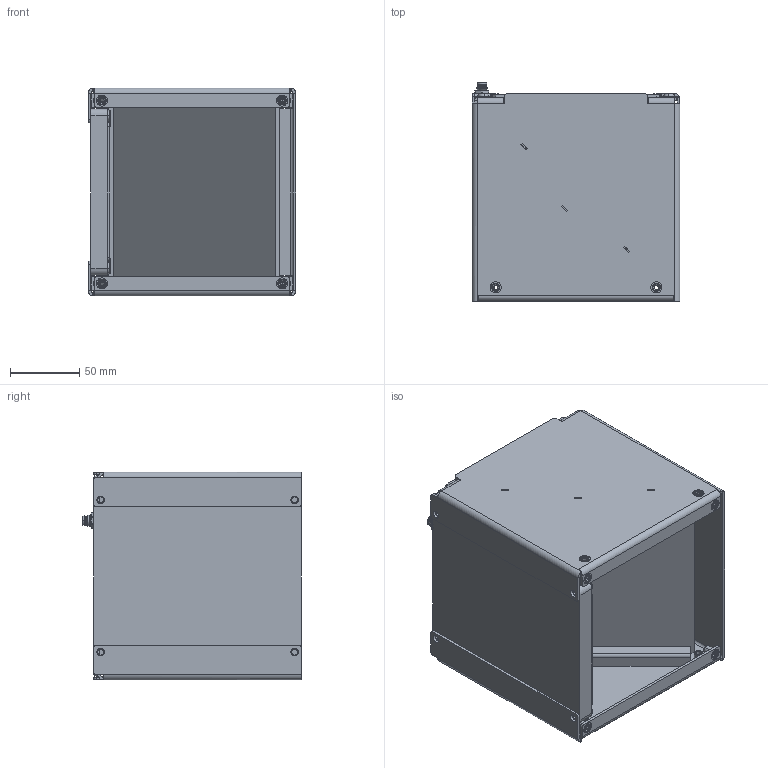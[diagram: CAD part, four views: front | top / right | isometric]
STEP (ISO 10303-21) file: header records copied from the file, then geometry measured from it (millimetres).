
FILE_DESCRIPTION (( 'STEP AP214' ), '1' );
FILE_NAME ('02076.00 Basisbaugruppe COAX-1010.STEP', '2020-12-07T11:28:39', ( '' ), ( '' ), 'SwSTEP 2.0', 'SolidWorks 2013', '' );
FILE_SCHEMA (( 'AUTOMOTIVE_DESIGN' ));
Length unit declared in the file: millimetre
Products named in the file (1): 02076.00 Basisbaugruppe COAX-1010
Bounding box: 150 x 158 x 150 mm (x, y, z)
Volume: 408760.2 mm3; surface area: 359207.3 mm2
Topology: 35 solids, 35 shells, 1062 faces, 2456 edges, 1510 vertices
Faces by surface type: plane 488, cylinder 388, cone 98, bspline 80, torus 8
Entity records: 43759 total; most frequent: CARTESIAN_POINT 7126, DIRECTION 5332, ORIENTED_EDGE 4912, EDGE_CURVE 2456, AXIS2_PLACEMENT_3D 1969, VERTEX_POINT 1510, VECTOR 1394, LINE 1394
